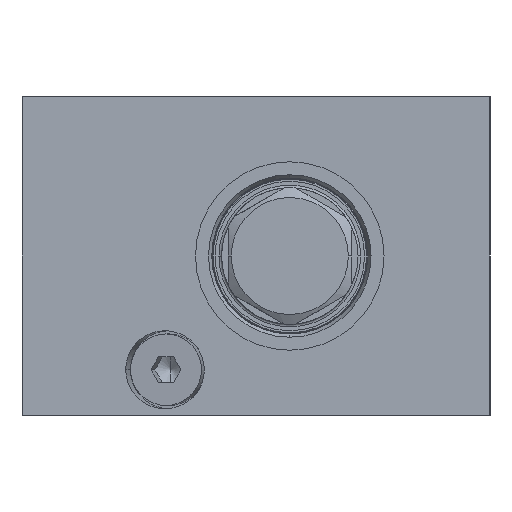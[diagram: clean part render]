
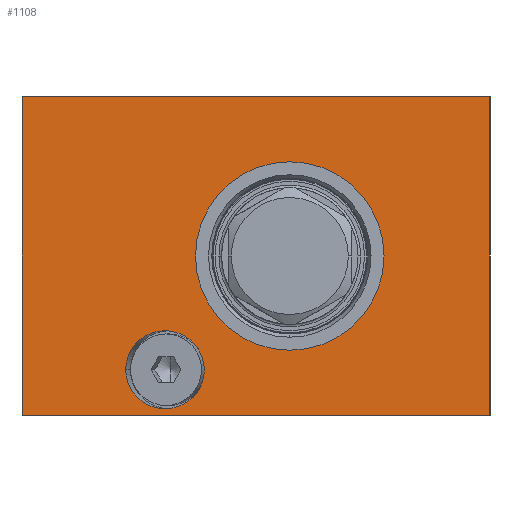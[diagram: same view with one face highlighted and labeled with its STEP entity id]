
A CAD part, left-side view. The second image highlights one B-rep face of the part: STEP entity #1108.
In plain terms, the highlighted planar face has unit normal (-1, 0, 0).
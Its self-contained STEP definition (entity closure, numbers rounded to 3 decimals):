
#1108 = ADVANCED_FACE ( 'NONE', ( #10160, #7077, #30463 ), #22370, .F. ) ;
#1346 = CARTESIAN_POINT ( 'NONE',  ( -49., -36., 24.5 ) ) ;
#1668 = CARTESIAN_POINT ( 'NONE',  ( -49., 7.955, -17.5 ) ) ;
#2529 = CARTESIAN_POINT ( 'NONE',  ( -49., 20.045, -17.5 ) ) ;
#3002 = LINE ( 'NONE', #14060, #20181 ) ;
#3170 = EDGE_CURVE ( 'NONE', #26343, #23259, #24619, .T. ) ;
#5272 = EDGE_LOOP ( 'NONE', ( #13568, #15521 ) ) ;
#6128 = VERTEX_POINT ( 'NONE', #12005 ) ;
#6221 = VERTEX_POINT ( 'NONE', #24940 ) ;
#6397 = CARTESIAN_POINT ( 'NONE',  ( -49., 20.045, -5.5 ) ) ;
#6604 = ORIENTED_EDGE ( 'NONE', *, *, #22036, .T. ) ;
#6894 = CARTESIAN_POINT ( 'NONE',  ( -49., 36., 24.5 ) ) ;
#7077 = FACE_BOUND ( 'NONE', #8975, .T. ) ;
#7868 = VECTOR ( 'NONE', #9574, 1000. ) ;
#8975 = EDGE_LOOP ( 'NONE', ( #6604, #28862 ) ) ;
#9049 = EDGE_CURVE ( 'NONE', #23259, #26343, #19185, .T. ) ;
#9440 = CARTESIAN_POINT ( 'NONE',  ( -49., -5.2, 14.5 ) ) ;
#9574 = DIRECTION ( 'NONE',  ( 0., 0., 1. ) ) ;
#9968 = EDGE_CURVE ( 'NONE', #6221, #38196, #20930, .T. ) ;
#10160 = FACE_OUTER_BOUND ( 'NONE', #16738, .T. ) ;
#10394 = ORIENTED_EDGE ( 'NONE', *, *, #21104, .F. ) ;
#11116 = DIRECTION ( 'NONE',  ( 0., -1., 0. ) ) ;
#11621 = CARTESIAN_POINT ( 'NONE',  ( -49., 36., 24.5 ) ) ;
#12005 = CARTESIAN_POINT ( 'NONE',  ( -49., 36., -24.5 ) ) ;
#12293 = VERTEX_POINT ( 'NONE', #9440 ) ;
#12588 = DIRECTION ( 'NONE',  ( 0., 0., 1. ) ) ;
#12826 = CIRCLE ( 'NONE', #18370, 14.5 ) ;
#13568 = ORIENTED_EDGE ( 'NONE', *, *, #9049, .F. ) ;
#13968 = CARTESIAN_POINT ( 'NONE',  ( -49., 20.045, -29.5 ) ) ;
#14060 = CARTESIAN_POINT ( 'NONE',  ( -49., 36., 24.5 ) ) ;
#14425 = VERTEX_POINT ( 'NONE', #11621 ) ;
#14537 = CARTESIAN_POINT ( 'NONE',  ( -49., 7.955, -17.5 ) ) ;
#15521 = ORIENTED_EDGE ( 'NONE', *, *, #3170, .F. ) ;
#15803 = DIRECTION ( 'NONE',  ( 0., 0., -1. ) ) ;
#16495 = VECTOR ( 'NONE', #33546, 1000. ) ;
#16719 = DIRECTION ( 'NONE',  ( 0., 0., -1. ) ) ;
#16738 = EDGE_LOOP ( 'NONE', ( #24446, #30836, #10394, #23964 ) ) ;
#17544 = LINE ( 'NONE', #32587, #7868 ) ;
#18370 = AXIS2_PLACEMENT_3D ( 'NONE', #24584, #36687, #33046 ) ;
#18888 = LINE ( 'NONE', #21807, #16495 ) ;
#19185 =( BOUNDED_CURVE ( )  B_SPLINE_CURVE ( 3, ( #24386, #21497, #6397, #29971 ),
 .UNSPECIFIED., .F., .T. ) 
 B_SPLINE_CURVE_WITH_KNOTS ( ( 4, 4 ),
 ( 3.142, 6.283 ),
 .UNSPECIFIED. ) 
 CURVE ( )  GEOMETRIC_REPRESENTATION_ITEM ( )  RATIONAL_B_SPLINE_CURVE ( ( 1., 0.333, 0.333, 1. ) ) 
 REPRESENTATION_ITEM ( '' )  );
#19785 = CIRCLE ( 'NONE', #24734, 14.5 ) ;
#20181 = VECTOR ( 'NONE', #11116, 1000. ) ;
#20930 = LINE ( 'NONE', #1346, #31097 ) ;
#21104 = EDGE_CURVE ( 'NONE', #6128, #14425, #17544, .T. ) ;
#21497 = CARTESIAN_POINT ( 'NONE',  ( -49., 7.955, -5.5 ) ) ;
#21807 = CARTESIAN_POINT ( 'NONE',  ( -49., 36., -24.5 ) ) ;
#22036 = EDGE_CURVE ( 'NONE', #34396, #12293, #12826, .T. ) ;
#22370 = PLANE ( 'NONE',  #31958 ) ;
#22850 = CARTESIAN_POINT ( 'NONE',  ( -49., 20.045, -17.5 ) ) ;
#23259 = VERTEX_POINT ( 'NONE', #1668 ) ;
#23964 = ORIENTED_EDGE ( 'NONE', *, *, #32037, .T. ) ;
#24386 = CARTESIAN_POINT ( 'NONE',  ( -49., 7.955, -17.5 ) ) ;
#24446 = ORIENTED_EDGE ( 'NONE', *, *, #9968, .T. ) ;
#24584 = CARTESIAN_POINT ( 'NONE',  ( -49., -5.2, 0. ) ) ;
#24619 =( BOUNDED_CURVE ( )  B_SPLINE_CURVE ( 3, ( #22850, #13968, #31522, #14537 ),
 .UNSPECIFIED., .F., .T. ) 
 B_SPLINE_CURVE_WITH_KNOTS ( ( 4, 4 ),
 ( 0., 3.142 ),
 .UNSPECIFIED. ) 
 CURVE ( )  GEOMETRIC_REPRESENTATION_ITEM ( )  RATIONAL_B_SPLINE_CURVE ( ( 1., 0.333, 0.333, 1. ) ) 
 REPRESENTATION_ITEM ( '' )  );
#24689 = DIRECTION ( 'NONE',  ( 1., 0., 0. ) ) ;
#24734 = AXIS2_PLACEMENT_3D ( 'NONE', #31572, #31757, #16719 ) ;
#24940 = CARTESIAN_POINT ( 'NONE',  ( -49., -36., -24.5 ) ) ;
#26343 = VERTEX_POINT ( 'NONE', #2529 ) ;
#28118 = EDGE_CURVE ( 'NONE', #12293, #34396, #19785, .T. ) ;
#28862 = ORIENTED_EDGE ( 'NONE', *, *, #28118, .T. ) ;
#29368 = CARTESIAN_POINT ( 'NONE',  ( -49., -5.2, -14.5 ) ) ;
#29971 = CARTESIAN_POINT ( 'NONE',  ( -49., 20.045, -17.5 ) ) ;
#30463 = FACE_BOUND ( 'NONE', #5272, .T. ) ;
#30836 = ORIENTED_EDGE ( 'NONE', *, *, #32083, .F. ) ;
#31097 = VECTOR ( 'NONE', #12588, 1000. ) ;
#31522 = CARTESIAN_POINT ( 'NONE',  ( -49., 7.955, -29.5 ) ) ;
#31572 = CARTESIAN_POINT ( 'NONE',  ( -49., -5.2, 0. ) ) ;
#31757 = DIRECTION ( 'NONE',  ( 1., 0., 0. ) ) ;
#31958 = AXIS2_PLACEMENT_3D ( 'NONE', #6894, #24689, #15803 ) ;
#32037 = EDGE_CURVE ( 'NONE', #6128, #6221, #18888, .T. ) ;
#32083 = EDGE_CURVE ( 'NONE', #14425, #38196, #3002, .T. ) ;
#32587 = CARTESIAN_POINT ( 'NONE',  ( -49., 36., 24.5 ) ) ;
#33046 = DIRECTION ( 'NONE',  ( 0., 0., -1. ) ) ;
#33546 = DIRECTION ( 'NONE',  ( 0., -1., 0. ) ) ;
#34396 = VERTEX_POINT ( 'NONE', #29368 ) ;
#36367 = CARTESIAN_POINT ( 'NONE',  ( -49., -36., 24.5 ) ) ;
#36687 = DIRECTION ( 'NONE',  ( 1., 0., 0. ) ) ;
#38196 = VERTEX_POINT ( 'NONE', #36367 ) ;
